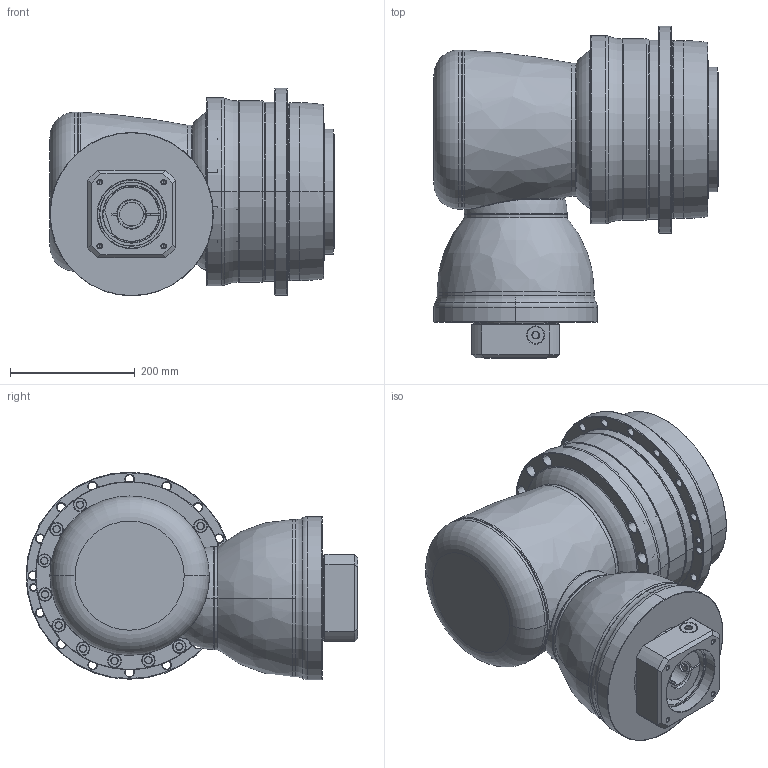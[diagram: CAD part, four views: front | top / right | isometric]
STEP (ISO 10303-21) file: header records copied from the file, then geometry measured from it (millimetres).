
FILE_DESCRIPTION((''),'2;1');
FILE_NAME('AHK285_2ST_38-P0409900101_ASM','2016-10-17T',('d01943'),(''),'PRO/ENGINEER BY PARAMETRIC TECHNOLOGY CORPORATION, 2008410','PRO/ENGINEER BY PARAMETRIC TECHNOLOGY CORPORATION, 2008410','');
FILE_SCHEMA(('CONFIG_CONTROL_DESIGN'));
Length unit declared in the file: millimetre
Products named in the file (12): P1008700002; P1802800001; P0278800003; P0359800003; P1315700001; P1007700001; P1318700101; P0503900012; P0912701201; P0409900101; 21711422019; AHK285_2ST_38-P0409900101_ASM
Assembly tree (11 placements, depth 2):
  AHK285_2ST_38-P0409900101_ASM
    P1008700002
    P1802800001
    P0278800003
    P0359800003
    P1315700001
    P1007700001
    P1318700101
    P0503900012
    P0912701201
    P0409900101
    21711422019
Bounding box: 455.5 x 532 x 333 mm (x, y, z)
Volume: 25429539.3 mm3; surface area: 1752213.4 mm2
Topology: 12 solids, 12 shells, 969 faces, 2194 edges, 1273 vertices
Faces by surface type: cylinder 343, cone 334, plane 136, torus 124, bspline 30, sphere 2
Entity records: 34487 total; most frequent: CARTESIAN_POINT 12133, DIRECTION 5144, ORIENTED_EDGE 4264, AXIS2_PLACEMENT_3D 2189, EDGE_CURVE 2132, VERTEX_POINT 1273, CIRCLE 1227, EDGE_LOOP 1151
